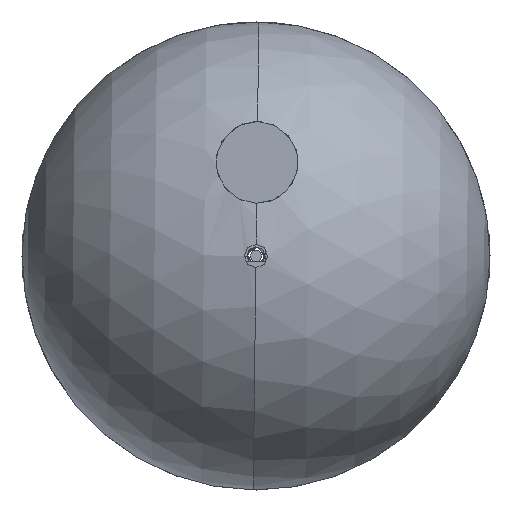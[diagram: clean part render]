
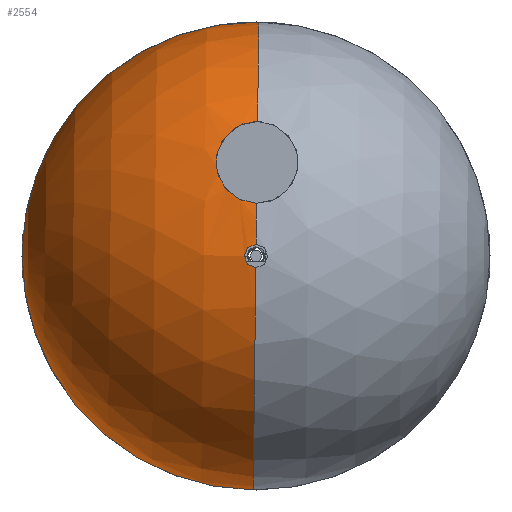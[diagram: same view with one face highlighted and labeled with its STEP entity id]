
A CAD part, front view. The second image highlights one B-rep face of the part: STEP entity #2554.
In plain terms, the highlighted spherical face has radius 20 mm.
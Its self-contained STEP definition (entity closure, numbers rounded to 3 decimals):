
#6 = EDGE_CURVE ( 'NONE', #1038, #1181, #1111, .T. ) ;
#165 = CARTESIAN_POINT ( 'NONE',  ( -36.732, 30.736, -2.195 ) ) ;
#181 = CARTESIAN_POINT ( 'NONE',  ( -37.889, 28.234, -3.499 ) ) ;
#208 = CARTESIAN_POINT ( 'NONE',  ( -39.437, 24.622, -0.946 ) ) ;
#227 = CARTESIAN_POINT ( 'NONE',  ( -39.282, 24.998, -1.815 ) ) ;
#333 = ORIENTED_EDGE ( 'NONE', *, *, #3553, .F. ) ;
#428 = ORIENTED_EDGE ( 'NONE', *, *, #2734, .F. ) ;
#471 = EDGE_CURVE ( 'NONE', #1038, #4329, #2827, .T. ) ;
#529 = CARTESIAN_POINT ( 'NONE',  ( -36.375, 31.476, -0.478 ) ) ;
#564 = CARTESIAN_POINT ( 'NONE',  ( -37.5, 29.094, -3.332 ) ) ;
#583 = CARTESIAN_POINT ( 'NONE',  ( -38.181, 27.577, -3.481 ) ) ;
#598 = CARTESIAN_POINT ( 'NONE',  ( -38.463, 26.93, -3.34 ) ) ;
#660 = DIRECTION ( 'NONE',  ( 0., 0., 1. ) ) ;
#721 = AXIS2_PLACEMENT_3D ( 'NONE', #3271, #1423, #4444 ) ;
#816 = CARTESIAN_POINT ( 'NONE',  ( -39.975, 20., 0. ) ) ;
#821 = EDGE_CURVE ( 'NONE', #4329, #2701, #1427, .T. ) ;
#854 = CARTESIAN_POINT ( 'NONE',  ( -36.363, 31.5, 0. ) ) ;
#925 = ORIENTED_EDGE ( 'NONE', *, *, #6, .F. ) ;
#988 = CARTESIAN_POINT ( 'NONE',  ( -37.044, 30.079, -2.824 ) ) ;
#1038 = VERTEX_POINT ( 'NONE', #4228 ) ;
#1111 = CIRCLE ( 'NONE', #721, 20. ) ;
#1181 = VERTEX_POINT ( 'NONE', #3348 ) ;
#1284 = CARTESIAN_POINT ( 'NONE',  ( -38.889, 25.936, -2.836 ) ) ;
#1341 = CARTESIAN_POINT ( 'NONE',  ( -37.596, 28.884, -3.394 ) ) ;
#1358 = CARTESIAN_POINT ( 'NONE',  ( -37.311, 29.506, -3.167 ) ) ;
#1423 = DIRECTION ( 'NONE',  ( 0., 0., 1. ) ) ;
#1427 = CIRCLE ( 'NONE', #4229, 20. ) ;
#1429 = VERTEX_POINT ( 'NONE', #4041 ) ;
#1486 = CARTESIAN_POINT ( 'NONE',  ( -39.975, 19., 0. ) ) ;
#1613 = DIRECTION ( 'NONE',  ( 0., 1., 0. ) ) ;
#1679 = CARTESIAN_POINT ( 'NONE',  ( -39.487, 24.5, 0. ) ) ;
#1681 = DIRECTION ( 'NONE',  ( 0., 0., -1. ) ) ;
#1698 = CARTESIAN_POINT ( 'NONE',  ( -36.458, 31.305, -1.176 ) ) ;
#1760 = DIRECTION ( 'NONE',  ( 0., 1., 0. ) ) ;
#1876 = AXIS2_PLACEMENT_3D ( 'NONE', #3925, #2516, #4798 ) ;
#1943 = DIRECTION ( 'NONE',  ( -1., 0., 0. ) ) ;
#1987 = CARTESIAN_POINT ( 'NONE',  ( -36.363, 31.5, -0.24 ) ) ;
#2031 = CARTESIAN_POINT ( 'NONE',  ( -39.329, 24.883, -1.61 ) ) ;
#2048 = CARTESIAN_POINT ( 'NONE',  ( -38.369, 27.145, -3.401 ) ) ;
#2063 = CARTESIAN_POINT ( 'NONE',  ( -36.959, 30.258, -2.684 ) ) ;
#2081 = CARTESIAN_POINT ( 'NONE',  ( -39.407, 24.695, -1.177 ) ) ;
#2139 = SPHERICAL_SURFACE ( 'NONE', #2891, 20. ) ;
#2335 = ORIENTED_EDGE ( 'NONE', *, *, #471, .T. ) ;
#2356 = CARTESIAN_POINT ( 'NONE',  ( -39.975, 21., 0. ) ) ;
#2395 = CARTESIAN_POINT ( 'NONE',  ( -39.169, 25.268, -2.2 ) ) ;
#2398 = EDGE_LOOP ( 'NONE', ( #2335, #4831, #428, #333, #2481, #925 ) ) ;
#2410 = CARTESIAN_POINT ( 'NONE',  ( -38.727, 26.316, -3.076 ) ) ;
#2451 = CARTESIAN_POINT ( 'NONE',  ( -39.477, 24.525, -0.479 ) ) ;
#2463 = CARTESIAN_POINT ( 'NONE',  ( -20., 0., 0. ) ) ;
#2465 = CARTESIAN_POINT ( 'NONE',  ( -39.106, 25.42, -2.376 ) ) ;
#2481 = ORIENTED_EDGE ( 'NONE', *, *, #3457, .F. ) ;
#2498 = CIRCLE ( 'NONE', #3749, 1. ) ;
#2501 = DIRECTION ( 'NONE',  ( 0., 0., -1. ) ) ;
#2516 = DIRECTION ( 'NONE',  ( -1., 0., 0. ) ) ;
#2554 = ADVANCED_FACE ( 'NONE', ( #3366 ), #2139, .T. ) ;
#2701 = VERTEX_POINT ( 'NONE', #1486 ) ;
#2734 = EDGE_CURVE ( 'NONE', #4648, #2701, #2498, .T. ) ;
#2770 = CARTESIAN_POINT ( 'NONE',  ( -38.966, 25.754, -2.694 ) ) ;
#2792 = CARTESIAN_POINT ( 'NONE',  ( -38.084, 27.794, -3.501 ) ) ;
#2827 = CIRCLE ( 'NONE', #1876, 20. ) ;
#2843 = CARTESIAN_POINT ( 'NONE',  ( -36.423, 31.378, -0.947 ) ) ;
#2871 = DIRECTION ( 'NONE',  ( 1., 0., 0. ) ) ;
#2891 = AXIS2_PLACEMENT_3D ( 'NONE', #4410, #2501, #1760 ) ;
#2902 = CARTESIAN_POINT ( 'NONE',  ( -20., 20., 0. ) ) ;
#3141 = CARTESIAN_POINT ( 'NONE',  ( -39.487, 24.5, -0.242 ) ) ;
#3207 = CARTESIAN_POINT ( 'NONE',  ( -37.219, 29.705, -3.065 ) ) ;
#3271 = CARTESIAN_POINT ( 'NONE',  ( -20., 20., 0. ) ) ;
#3348 = CARTESIAN_POINT ( 'NONE',  ( -36.363, 31.5, 0. ) ) ;
#3366 = FACE_OUTER_BOUND ( 'NONE', #2398, .T. ) ;
#3457 = EDGE_CURVE ( 'NONE', #1181, #1429, #3992, .T. ) ;
#3520 = CARTESIAN_POINT ( 'NONE',  ( -36.605, 31.002, -1.815 ) ) ;
#3553 = EDGE_CURVE ( 'NONE', #1429, #4648, #3903, .T. ) ;
#3749 = AXIS2_PLACEMENT_3D ( 'NONE', #816, #1943, #1613 ) ;
#3903 = CIRCLE ( 'NONE', #4616, 20. ) ;
#3925 = CARTESIAN_POINT ( 'NONE',  ( -20., 20., 0. ) ) ;
#3959 = CARTESIAN_POINT ( 'NONE',  ( -36.804, 30.587, -2.368 ) ) ;
#3992 = B_SPLINE_CURVE_WITH_KNOTS ( 'NONE', 3,
 ( #854, #1987, #529, #2843, #1698, #4289, #3520, #165, #3959, #2063, #988, #3207, #1358, #564, #1341, #4344, #181, #2792, #583, #2048, #598, #4694, #2410, #1284, #2770, #2465, #2395, #227, #2031, #2081, #208, #2451, #3141, #1679 ),
 .UNSPECIFIED., .F., .F.,
 ( 4, 2, 2, 2, 2, 2, 2, 2, 2, 2, 2, 2, 2, 2, 2, 2, 4 ),
 ( 0.014, 0.014, 0.015, 0.016, 0.017, 0.017, 0.018, 0.019, 0.019, 0.02, 0.021, 0.022, 0.022, 0.023, 0.024, 0.024, 0.025 ),
 .UNSPECIFIED. ) ;
#4041 = CARTESIAN_POINT ( 'NONE',  ( -39.487, 24.5, 0. ) ) ;
#4228 = CARTESIAN_POINT ( 'NONE',  ( -20., 40., 0. ) ) ;
#4229 = AXIS2_PLACEMENT_3D ( 'NONE', #4655, #1681, #4307 ) ;
#4289 = CARTESIAN_POINT ( 'NONE',  ( -36.549, 31.118, -1.608 ) ) ;
#4307 = DIRECTION ( 'NONE',  ( 0., 1., 0. ) ) ;
#4329 = VERTEX_POINT ( 'NONE', #2463 ) ;
#4344 = CARTESIAN_POINT ( 'NONE',  ( -37.79, 28.455, -3.477 ) ) ;
#4410 = CARTESIAN_POINT ( 'NONE',  ( -20., 20., 0. ) ) ;
#4444 = DIRECTION ( 'NONE',  ( 1., 0., 0. ) ) ;
#4616 = AXIS2_PLACEMENT_3D ( 'NONE', #2902, #660, #2871 ) ;
#4648 = VERTEX_POINT ( 'NONE', #2356 ) ;
#4655 = CARTESIAN_POINT ( 'NONE',  ( -20., 20., 0. ) ) ;
#4694 = CARTESIAN_POINT ( 'NONE',  ( -38.642, 26.514, -3.177 ) ) ;
#4798 = DIRECTION ( 'NONE',  ( 0., -1., 0. ) ) ;
#4831 = ORIENTED_EDGE ( 'NONE', *, *, #821, .T. ) ;
